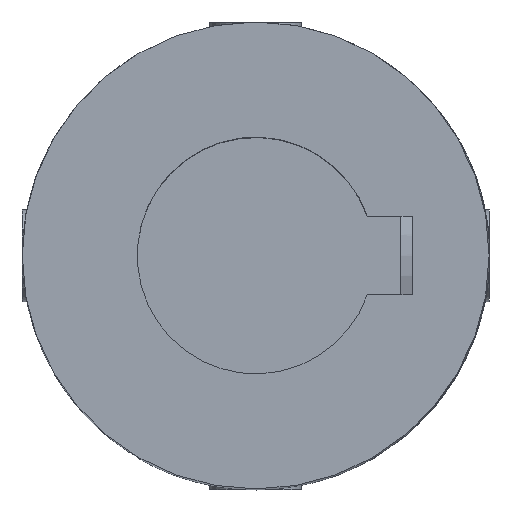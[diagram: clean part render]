
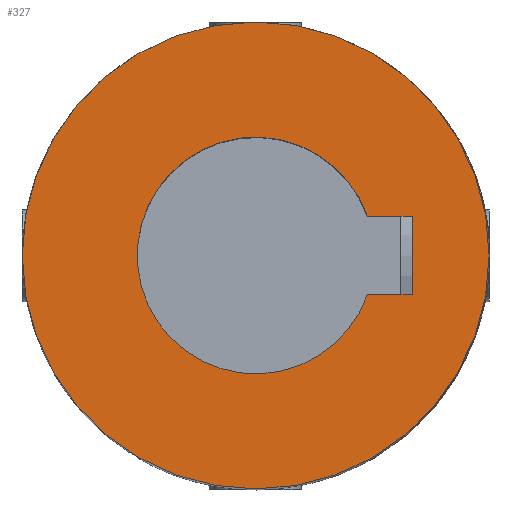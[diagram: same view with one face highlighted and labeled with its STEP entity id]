
A CAD part, top view. The second image highlights one B-rep face of the part: STEP entity #327.
In plain terms, the highlighted planar face has unit normal (0, 0, 1).
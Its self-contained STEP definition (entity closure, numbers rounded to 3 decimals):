
#327=ADVANCED_FACE('',(#628,#630),#632,.T.);
#628=FACE_BOUND('',#629,.T.);
#629=EDGE_LOOP('',(#886));
#630=FACE_BOUND('',#631,.T.);
#631=EDGE_LOOP('',(#887,#888,#889,#890));
#632=PLANE('',#633);
#633=AXIS2_PLACEMENT_3D('',#634,#635,#636);
#634=CARTESIAN_POINT('',(0.,0.,46.));
#635=DIRECTION('',(0.,0.,1.));
#636=DIRECTION('',(1.,0.,0.));
#886=ORIENTED_EDGE('',*,*,#1009,.T.);
#887=ORIENTED_EDGE('',*,*,#1032,.T.);
#888=ORIENTED_EDGE('',*,*,#1033,.T.);
#889=ORIENTED_EDGE('',*,*,#1006,.T.);
#890=ORIENTED_EDGE('',*,*,#1031,.T.);
#1006=EDGE_CURVE('',#1085,#1083,#1086,.F.);
#1009=EDGE_CURVE('',#1090,#1090,#1091,.T.);
#1031=EDGE_CURVE('',#1083,#1131,#1133,.F.);
#1032=EDGE_CURVE('',#1131,#1134,#1135,.F.);
#1033=EDGE_CURVE('',#1134,#1085,#1136,.F.);
#1083=VERTEX_POINT('',#1217);
#1085=VERTEX_POINT('',#1221);
#1086=LINE('',#1222,#1223);
#1090=VERTEX_POINT('',#1233);
#1091=CIRCLE('',#1234,17.75);
#1131=VERTEX_POINT('',#1909);
#1133=LINE('',#1913,#1914);
#1134=VERTEX_POINT('',#1916);
#1135=CIRCLE('',#1917,9.);
#1136=LINE('',#1921,#1922);
#1217=CARTESIAN_POINT('',(11.9,-3.,46.));
#1221=CARTESIAN_POINT('',(11.9,3.,46.));
#1222=CARTESIAN_POINT('',(11.9,-3.,46.));
#1223=VECTOR('',#1224,1.);
#1224=DIRECTION('',(0.,1.,0.));
#1233=CARTESIAN_POINT('',(17.75,0.,46.));
#1234=AXIS2_PLACEMENT_3D('',#1235,#1236,#1237);
#1235=CARTESIAN_POINT('',(0.,0.,46.));
#1236=DIRECTION('',(0.,0.,1.));
#1237=DIRECTION('',(1.,0.,0.));
#1909=CARTESIAN_POINT('',(8.485,-3.,46.));
#1913=CARTESIAN_POINT('',(8.485,-3.,46.));
#1914=VECTOR('',#1915,1.);
#1915=DIRECTION('',(1.,0.,0.));
#1916=CARTESIAN_POINT('',(8.485,3.,46.));
#1917=AXIS2_PLACEMENT_3D('',#1918,#1919,#1920);
#1918=CARTESIAN_POINT('',(0.,0.,46.));
#1919=DIRECTION('',(0.,-0.,1.));
#1920=DIRECTION('',(0.943,0.333,0.));
#1921=CARTESIAN_POINT('',(11.9,3.,46.));
#1922=VECTOR('',#1923,1.);
#1923=DIRECTION('',(-1.,0.,0.));
